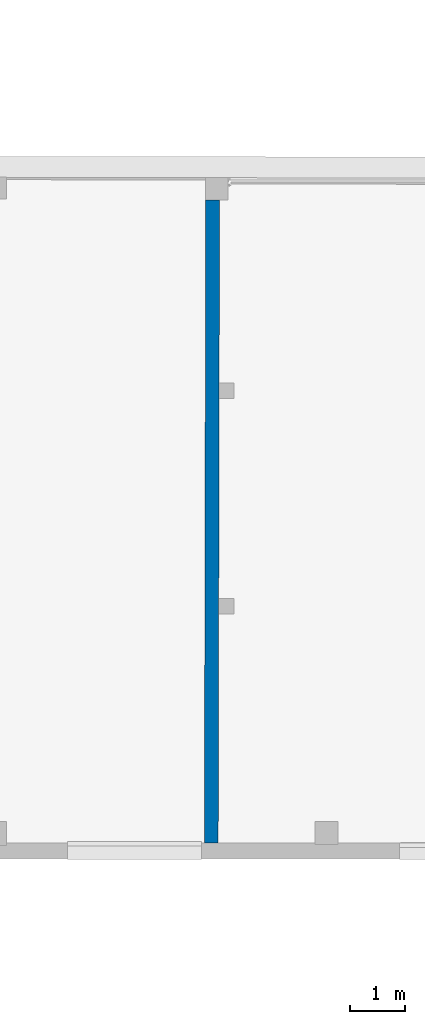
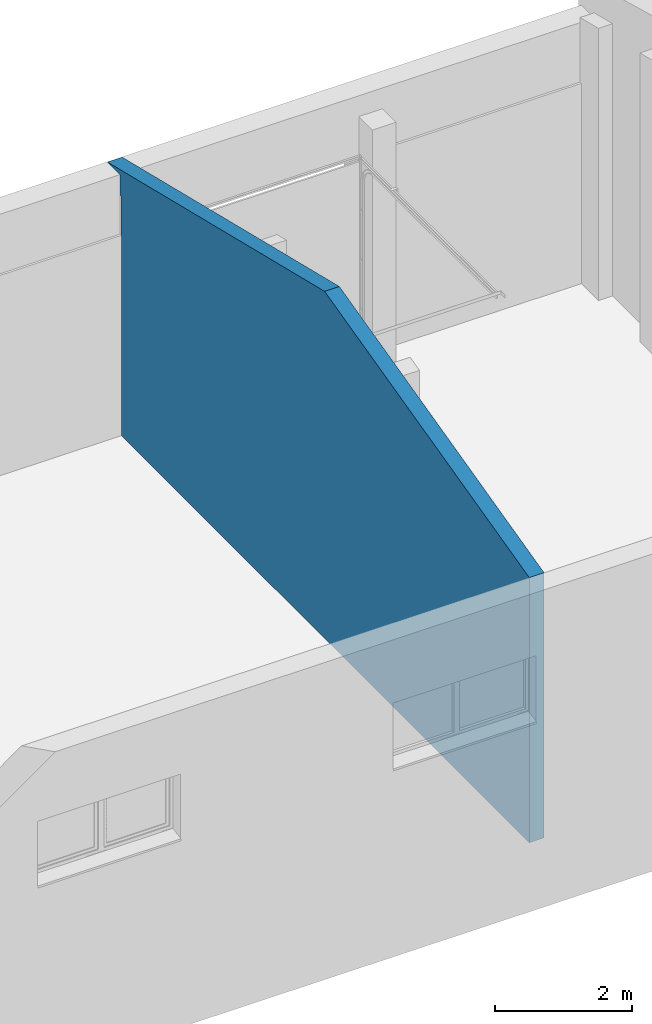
# One storey, part 164 of 301: 1 wall.
"""IFC2X3 building model written with IfcOpenShell, lengths in millimetres."""

from ifc_helpers import new_model, entity, si_unit, converted_unit, derived_unit, money_unit, direction, frame, origin_with_axes, place, context, subcontext, project, spatial, faceted_brep, material, type_object, element, save


model = new_model("IFC2X3")

# Units and contexts
model_context = context("Model", 3, precision=0.01, world=origin_with_axes(), true_north=direction((0.0, 1.0)))
body_context = subcontext(model_context, "Body", "Model", "MODEL_VIEW")
ifc_project = project(units=[si_unit("LENGTHUNIT", "METRE", prefix="MILLI"), si_unit("AREAUNIT", "SQUARE_METRE"), si_unit("VOLUMEUNIT", "CUBIC_METRE"), converted_unit("PLANEANGLEUNIT", "DEGREE", entity("IfcPlaneAngleMeasure", 0.0174532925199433), si_unit("PLANEANGLEUNIT", "RADIAN"), dimensions=[0, 0, 0, 0, 0, 0, 0]), money_unit("EUR"), converted_unit("TIMEUNIT", "Year", entity("IfcTimeMeasure", 31557600.0), si_unit("TIMEUNIT", "SECOND"), dimensions=[0, 0, 1, 0, 0, 0, 0]), si_unit("MASSUNIT", "GRAM", prefix="KILO"), si_unit("THERMODYNAMICTEMPERATUREUNIT", "DEGREE_CELSIUS"), si_unit("LUMINOUSINTENSITYUNIT", "LUMEN"), si_unit("ENERGYUNIT", "JOULE", prefix="MEGA"), derived_unit("THERMALCONDUCTANCEUNIT", [(si_unit("POWERUNIT", "WATT"), 1), (si_unit("LENGTHUNIT", "METRE"), -1), (si_unit("THERMODYNAMICTEMPERATUREUNIT", "KELVIN"), -1)]), derived_unit("SPECIFICHEATCAPACITYUNIT", [(si_unit("ENERGYUNIT", "JOULE"), 1), (si_unit("MASSUNIT", "GRAM", prefix="KILO"), -1), (si_unit("THERMODYNAMICTEMPERATUREUNIT", "KELVIN"), -1)]), derived_unit("MASSDENSITYUNIT", [(si_unit("MASSUNIT", "GRAM", prefix="KILO"), 1), (si_unit("VOLUMEUNIT", "CUBIC_METRE"), -1)])], contexts=[model_context])

# Site, building, storey
site_placement = place(None, frame((0.0, 0.0, 8650.0), z_axis=(0.0, 0.0, 1.0), x_axis=(1.0, 0.0, 0.0)))
site = spatial("IfcSite", under=ifc_project, at=site_placement, Name="43301:001:0844", CompositionType="ELEMENT")
building_placement = place(site_placement, origin_with_axes())
building = spatial("IfcBuilding", under=site, at=building_placement, Name="Kuressaare Ametikooli tuulikute mehaanikute õppekorpus", CompositionType="ELEMENT")
storey_placement = place(building_placement, origin_with_axes())
storey = spatial("IfcBuildingStorey", under=building, at=storey_placement, Name="1.korrus", CompositionType="ELEMENT", Elevation=0.0)

# Wall
ifc_material = material(Name="GENEERILINE - KONSTRUKTRIOON")
wall_type = type_object("IfcWallType", Name="GENEERILINE - KONSTRUKTRIOON 250", PredefinedType="NOTDEFINED")
wall_placement = place(storey_placement, frame((192249.7367291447, 26218.91379746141, 0.0688909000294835), z_axis=(0.0, 0.0, 1.0), x_axis=(-0.002056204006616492, -0.9999978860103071, 0.0)))
element("IfcWall", 1, at=wall_placement, inside=storey, type_object=wall_type, material=ifc_material, Name="SS-XX", context=body_context, shape_type="Brep", body=[
    faceted_brep([(8.214802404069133, 0.0, 4641.262103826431), (7.700750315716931, 250.0000000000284, 4641.262103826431), (379.7424177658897, 250.0, 4641.262103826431), (380.0002020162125, 0.0, 4641.262103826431), (6392.126179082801, 250.0000000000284, 6206.043669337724), (6392.640231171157, 0.0, 6206.043669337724), (12410.76826579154, 250.0000000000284, 4740.545413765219), (12410.76826579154, 250.0000000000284, 0.0), (779.742630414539, 250.0000000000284, 0.0), (779.7426304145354, 250.0000000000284, 4269.93110909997), (379.7424177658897, 250.0, 4269.93110909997), (380.0002020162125, 0.0, 4269.93110909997), (410.2507277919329, 0.0, 4269.93110909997), (410.2507277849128, 0.0, 3579.93110909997), (420.0002232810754, 0.0, 3579.93110909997), (420.0002232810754, 0.0, 0.0), (12411.28231787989, 0.0, 0.0), (12411.28231787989, 0.0, 4740.545413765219), (420.0002129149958, 0.010053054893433, 0.0), (780.0000215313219, 0.3812621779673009, 0.0), (780.0000215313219, 0.3812621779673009, 4269.93110909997), (420.0002129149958, 0.010053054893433, 3579.93110909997)], [[[0, 1, 2, 3]], [[4, 1, 0, 5]], [[4, 6, 7, 8, 9, 10, 2, 1]], [[3, 2, 10, 11]], [[5, 0, 3, 11, 12, 13, 14, 15, 16, 17]], [[6, 4, 5, 17]], [[6, 17, 16, 7]], [[15, 18, 19, 8, 7, 16]], [[19, 20, 9, 8]], [[20, 12, 11, 10, 9]], [[18, 21, 13, 12, 20, 19]], [[21, 14, 13]], [[15, 14, 21, 18]]]),
])

save(model, "model.ifc")
